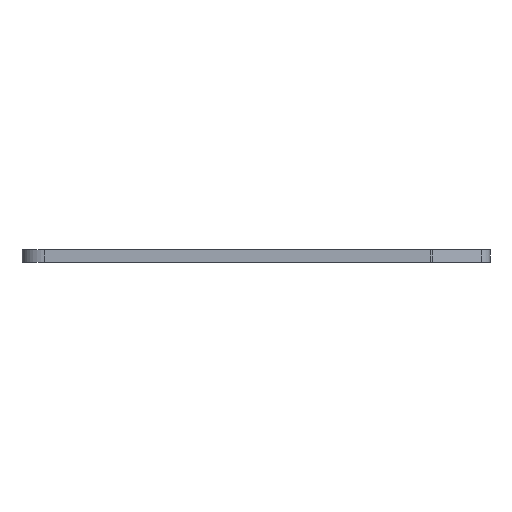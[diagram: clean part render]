
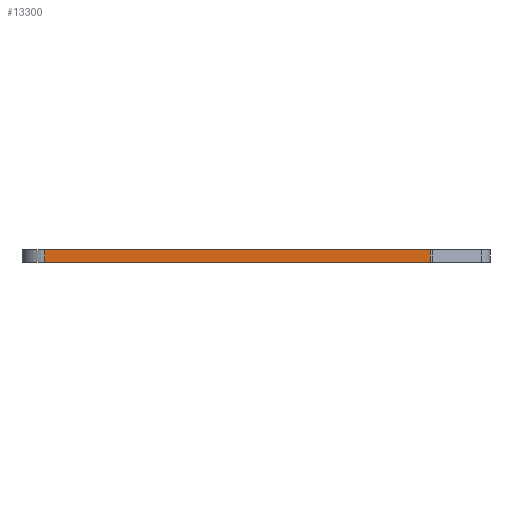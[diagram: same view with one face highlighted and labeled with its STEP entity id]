
A CAD part, front view. The second image highlights one B-rep face of the part: STEP entity #13300.
In plain terms, the highlighted planar face has unit normal (0, -1, 0).
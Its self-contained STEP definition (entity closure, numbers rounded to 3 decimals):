
#950=CARTESIAN_POINT('',(80.699,-38.2,
0.));
#960=VERTEX_POINT('',#950);
#990=CARTESIAN_POINT('',(80.699,-38.2,
2.2));
#1000=DIRECTION('',(0.,0.,-1.));
#1010=VECTOR('',#1000,1.);
#1020=LINE('',#990,#1010);
#1030=CARTESIAN_POINT('',(80.699,-38.2,
2.2));
#1040=VERTEX_POINT('',#1030);
#1050=EDGE_CURVE('',#1040,#960,#1020,.T.);
#4480=CARTESIAN_POINT('',(12.73,-38.2,
0.));
#4490=VERTEX_POINT('',#4480);
#4520=CARTESIAN_POINT('',(47.92,-38.2,
0.));
#4530=DIRECTION('',(1.,0.,0.));
#4540=VECTOR('',#4530,1.);
#4550=LINE('',#4520,#4540);
#4560=EDGE_CURVE('',#4490,#960,#4550,.T.);
#9460=CARTESIAN_POINT('',(47.92,-38.2,2.2))
;
#9470=DIRECTION('',(1.,0.,0.));
#9480=VECTOR('',#9470,1.);
#9490=LINE('',#9460,#9480);
#9500=CARTESIAN_POINT('',(12.73,-38.2,
2.2));
#9510=VERTEX_POINT('',#9500);
#9520=EDGE_CURVE('',#9510,#1040,#9490,.T.);
#13140=CARTESIAN_POINT('',(12.73,-38.2,
2.2));
#13150=DIRECTION('',(0.,-1.,0.));
#13160=DIRECTION('',(-1.,-0.,0.));
#13170=AXIS2_PLACEMENT_3D('',#13140,#13150,#13160);
#13180=PLANE('',#13170);
#13190=ORIENTED_EDGE('',*,*,#1050,.F.);
#13200=ORIENTED_EDGE('',*,*,#4560,.T.);
#13210=CARTESIAN_POINT('',(12.73,-38.2,
2.2));
#13220=DIRECTION('',(0.,0.,-1.));
#13230=VECTOR('',#13220,1.);
#13240=LINE('',#13210,#13230);
#13250=EDGE_CURVE('',#9510,#4490,#13240,.T.);
#13260=ORIENTED_EDGE('',*,*,#13250,.T.);
#13270=ORIENTED_EDGE('',*,*,#9520,.F.);
#13280=EDGE_LOOP('',(#13270,#13260,#13200,#13190));
#13290=FACE_OUTER_BOUND('',#13280,.T.);
#13300=ADVANCED_FACE('',(#13290),#13180,.T.);
